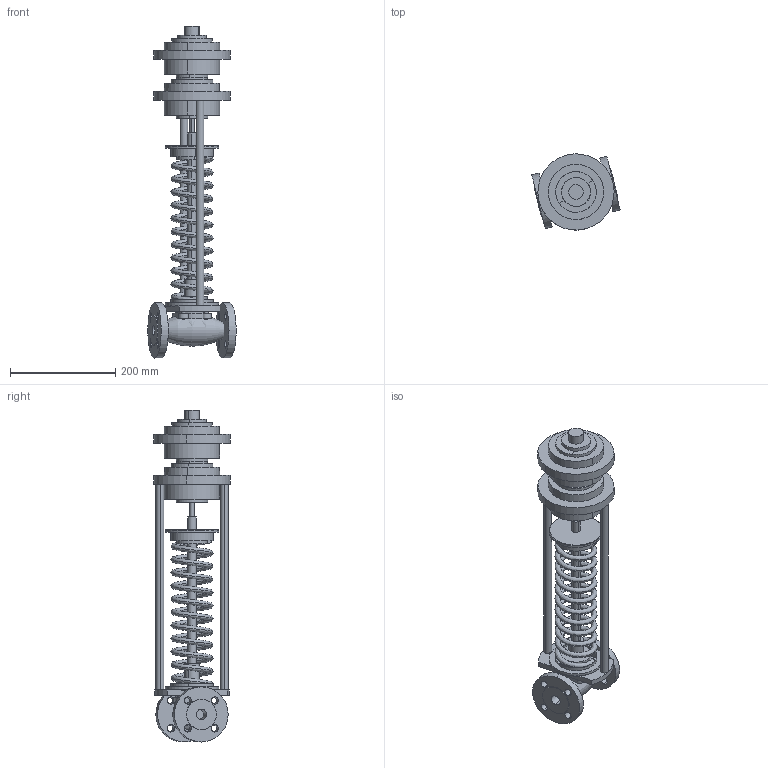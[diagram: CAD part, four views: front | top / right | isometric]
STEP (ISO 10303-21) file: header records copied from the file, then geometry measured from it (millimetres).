
FILE_DESCRIPTION (( 'STEP AP214' ), '1' );
FILE_NAME ('RDT-H-RDT-PH DN20 (0.1).stp', '2025-12-12T11:31:01', ( '' ), ( '' ), 'SwSTEP 2.0', 'SolidWorks 2023', '' );
FILE_SCHEMA (( 'AUTOMOTIVE_DESIGN' ));
Length unit declared in the file: millimetre
Products named in the file (1): RDT-H-RDT-PH DN20 (0.1)
Bounding box: 168 x 144.95 x 631.5 mm (x, y, z)
Volume: 2694228.7 mm3; surface area: 367763.6 mm2
Topology: 1 solids, 2 shells, 175 faces, 404 edges, 262 vertices
Faces by surface type: cylinder 90, plane 51, cone 28, torus 4, bspline 2
Entity records: 9469 total; most frequent: CARTESIAN_POINT 5236, DIRECTION 963, ORIENTED_EDGE 804, AXIS2_PLACEMENT_3D 411, EDGE_CURVE 402, VERTEX_POINT 261, EDGE_LOOP 237, CIRCLE 237
